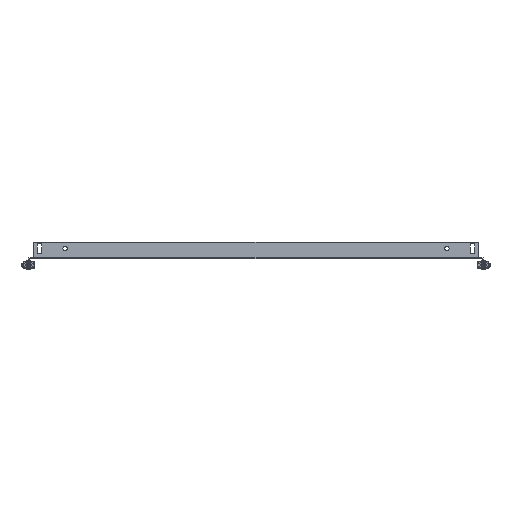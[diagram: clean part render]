
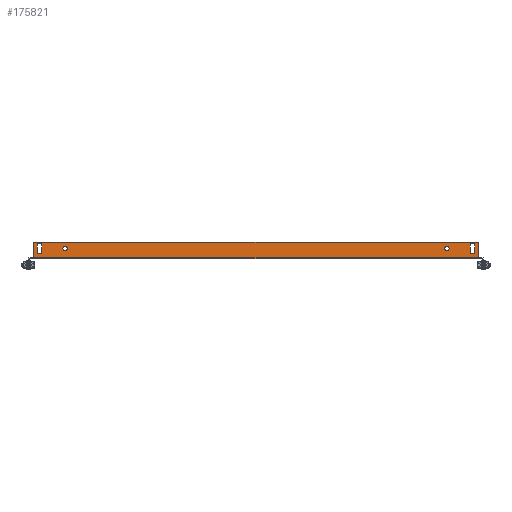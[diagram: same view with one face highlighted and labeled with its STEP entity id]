
A CAD part, front view. The second image highlights one B-rep face of the part: STEP entity #175821.
In plain terms, the highlighted planar face has unit normal (0, -1, 0).
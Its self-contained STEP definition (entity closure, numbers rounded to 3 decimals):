
#162298 = VERTEX_POINT('',#162299);
#162299 = CARTESIAN_POINT('',(342.,-484.5,0.));
#162305 = EDGE_CURVE('',#162306,#162298,#162308,.T.);
#162306 = VERTEX_POINT('',#162307);
#162307 = CARTESIAN_POINT('',(-342.,-484.5,0.));
#162308 = LINE('',#162309,#162310);
#162309 = CARTESIAN_POINT('',(-342.,-484.5,0.));
#162310 = VECTOR('',#162311,1.);
#162311 = DIRECTION('',(1.,-0.,-0.));
#175700 = VERTEX_POINT('',#175701);
#175701 = CARTESIAN_POINT('',(-342.,-484.5,2.6));
#175716 = EDGE_CURVE('',#175700,#162306,#175717,.T.);
#175717 = LINE('',#175718,#175719);
#175718 = CARTESIAN_POINT('',(-342.,-484.5,2.6));
#175719 = VECTOR('',#175720,1.);
#175720 = DIRECTION('',(0.,0.,-1.));
#175740 = VERTEX_POINT('',#175741);
#175741 = CARTESIAN_POINT('',(342.,-484.5,2.6));
#175747 = EDGE_CURVE('',#175740,#162298,#175748,.T.);
#175748 = LINE('',#175749,#175750);
#175749 = CARTESIAN_POINT('',(342.,-484.5,2.));
#175750 = VECTOR('',#175751,1.);
#175751 = DIRECTION('',(-0.,0.,-1.));
#175773 = VERTEX_POINT('',#175774);
#175774 = CARTESIAN_POINT('',(342.,-484.5,26.));
#175780 = EDGE_CURVE('',#175740,#175773,#175781,.T.);
#175781 = LINE('',#175782,#175783);
#175782 = CARTESIAN_POINT('',(342.,-484.5,26.));
#175783 = VECTOR('',#175784,1.);
#175784 = DIRECTION('',(-0.,0.,1.));
#175795 = EDGE_CURVE('',#175796,#175700,#175798,.T.);
#175796 = VERTEX_POINT('',#175797);
#175797 = CARTESIAN_POINT('',(-342.,-484.5,26.));
#175798 = LINE('',#175799,#175800);
#175799 = CARTESIAN_POINT('',(-342.,-484.5,2.));
#175800 = VECTOR('',#175801,1.);
#175801 = DIRECTION('',(-0.,0.,-1.));
#175821 = ADVANCED_FACE('',(#175822,#175856,#175867,#175878,#175912),
  #175925,.F.);
#175822 = FACE_BOUND('',#175823,.T.);
#175823 = EDGE_LOOP('',(#175824,#175834,#175842,#175850));
#175824 = ORIENTED_EDGE('',*,*,#175825,.F.);
#175825 = EDGE_CURVE('',#175826,#175828,#175830,.T.);
#175826 = VERTEX_POINT('',#175827);
#175827 = CARTESIAN_POINT('',(336.5,-484.5,9.));
#175828 = VERTEX_POINT('',#175829);
#175829 = CARTESIAN_POINT('',(336.5,-484.5,23.));
#175830 = LINE('',#175831,#175832);
#175831 = CARTESIAN_POINT('',(336.5,-484.5,23.));
#175832 = VECTOR('',#175833,1.);
#175833 = DIRECTION('',(-0.,-0.,1.));
#175834 = ORIENTED_EDGE('',*,*,#175835,.F.);
#175835 = EDGE_CURVE('',#175836,#175826,#175838,.T.);
#175836 = VERTEX_POINT('',#175837);
#175837 = CARTESIAN_POINT('',(329.5,-484.5,9.));
#175838 = LINE('',#175839,#175840);
#175839 = CARTESIAN_POINT('',(336.5,-484.5,9.));
#175840 = VECTOR('',#175841,1.);
#175841 = DIRECTION('',(1.,-0.,-0.));
#175842 = ORIENTED_EDGE('',*,*,#175843,.F.);
#175843 = EDGE_CURVE('',#175844,#175836,#175846,.T.);
#175844 = VERTEX_POINT('',#175845);
#175845 = CARTESIAN_POINT('',(329.5,-484.5,23.));
#175846 = LINE('',#175847,#175848);
#175847 = CARTESIAN_POINT('',(329.5,-484.5,9.));
#175848 = VECTOR('',#175849,1.);
#175849 = DIRECTION('',(0.,-0.,-1.));
#175850 = ORIENTED_EDGE('',*,*,#175851,.F.);
#175851 = EDGE_CURVE('',#175828,#175844,#175852,.T.);
#175852 = LINE('',#175853,#175854);
#175853 = CARTESIAN_POINT('',(329.5,-484.5,23.));
#175854 = VECTOR('',#175855,1.);
#175855 = DIRECTION('',(-1.,-0.,-0.));
#175856 = FACE_BOUND('',#175857,.T.);
#175857 = EDGE_LOOP('',(#175858));
#175858 = ORIENTED_EDGE('',*,*,#175859,.F.);
#175859 = EDGE_CURVE('',#175860,#175860,#175862,.T.);
#175860 = VERTEX_POINT('',#175861);
#175861 = CARTESIAN_POINT('',(293.5,-484.5,19.5));
#175862 = CIRCLE('',#175863,3.5);
#175863 = AXIS2_PLACEMENT_3D('',#175864,#175865,#175866);
#175864 = CARTESIAN_POINT('',(293.5,-484.5,16.));
#175865 = DIRECTION('',(0.,-1.,0.));
#175866 = DIRECTION('',(0.,0.,1.));
#175867 = FACE_BOUND('',#175868,.T.);
#175868 = EDGE_LOOP('',(#175869));
#175869 = ORIENTED_EDGE('',*,*,#175870,.F.);
#175870 = EDGE_CURVE('',#175871,#175871,#175873,.T.);
#175871 = VERTEX_POINT('',#175872);
#175872 = CARTESIAN_POINT('',(-293.5,-484.5,12.5));
#175873 = CIRCLE('',#175874,3.5);
#175874 = AXIS2_PLACEMENT_3D('',#175875,#175876,#175877);
#175875 = CARTESIAN_POINT('',(-293.5,-484.5,16.));
#175876 = DIRECTION('',(0.,-1.,0.));
#175877 = DIRECTION('',(0.,0.,-1.));
#175878 = FACE_BOUND('',#175879,.T.);
#175879 = EDGE_LOOP('',(#175880,#175890,#175898,#175906));
#175880 = ORIENTED_EDGE('',*,*,#175881,.F.);
#175881 = EDGE_CURVE('',#175882,#175884,#175886,.T.);
#175882 = VERTEX_POINT('',#175883);
#175883 = CARTESIAN_POINT('',(-336.5,-484.5,23.));
#175884 = VERTEX_POINT('',#175885);
#175885 = CARTESIAN_POINT('',(-336.5,-484.5,9.));
#175886 = LINE('',#175887,#175888);
#175887 = CARTESIAN_POINT('',(-336.5,-484.5,9.));
#175888 = VECTOR('',#175889,1.);
#175889 = DIRECTION('',(-0.,-0.,-1.));
#175890 = ORIENTED_EDGE('',*,*,#175891,.F.);
#175891 = EDGE_CURVE('',#175892,#175882,#175894,.T.);
#175892 = VERTEX_POINT('',#175893);
#175893 = CARTESIAN_POINT('',(-329.5,-484.5,23.));
#175894 = LINE('',#175895,#175896);
#175895 = CARTESIAN_POINT('',(-336.5,-484.5,23.));
#175896 = VECTOR('',#175897,1.);
#175897 = DIRECTION('',(-1.,-0.,-0.));
#175898 = ORIENTED_EDGE('',*,*,#175899,.F.);
#175899 = EDGE_CURVE('',#175900,#175892,#175902,.T.);
#175900 = VERTEX_POINT('',#175901);
#175901 = CARTESIAN_POINT('',(-329.5,-484.5,9.));
#175902 = LINE('',#175903,#175904);
#175903 = CARTESIAN_POINT('',(-329.5,-484.5,23.));
#175904 = VECTOR('',#175905,1.);
#175905 = DIRECTION('',(-0.,-0.,1.));
#175906 = ORIENTED_EDGE('',*,*,#175907,.F.);
#175907 = EDGE_CURVE('',#175884,#175900,#175908,.T.);
#175908 = LINE('',#175909,#175910);
#175909 = CARTESIAN_POINT('',(-329.5,-484.5,9.));
#175910 = VECTOR('',#175911,1.);
#175911 = DIRECTION('',(1.,-0.,-0.));
#175912 = FACE_BOUND('',#175913,.T.);
#175913 = EDGE_LOOP('',(#175914,#175915,#175916,#175917,#175918,#175919)
  );
#175914 = ORIENTED_EDGE('',*,*,#175795,.T.);
#175915 = ORIENTED_EDGE('',*,*,#175716,.T.);
#175916 = ORIENTED_EDGE('',*,*,#162305,.T.);
#175917 = ORIENTED_EDGE('',*,*,#175747,.F.);
#175918 = ORIENTED_EDGE('',*,*,#175780,.T.);
#175919 = ORIENTED_EDGE('',*,*,#175920,.T.);
#175920 = EDGE_CURVE('',#175773,#175796,#175921,.T.);
#175921 = LINE('',#175922,#175923);
#175922 = CARTESIAN_POINT('',(-342.,-484.5,26.));
#175923 = VECTOR('',#175924,1.);
#175924 = DIRECTION('',(-1.,-0.,-0.));
#175925 = PLANE('',#175926);
#175926 = AXIS2_PLACEMENT_3D('',#175927,#175928,#175929);
#175927 = CARTESIAN_POINT('',(342.,-484.5,2.));
#175928 = DIRECTION('',(-0.,1.,0.));
#175929 = DIRECTION('',(0.,0.,1.));
